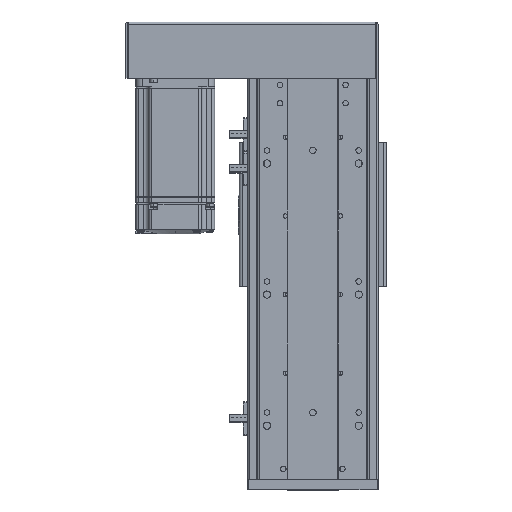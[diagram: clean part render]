
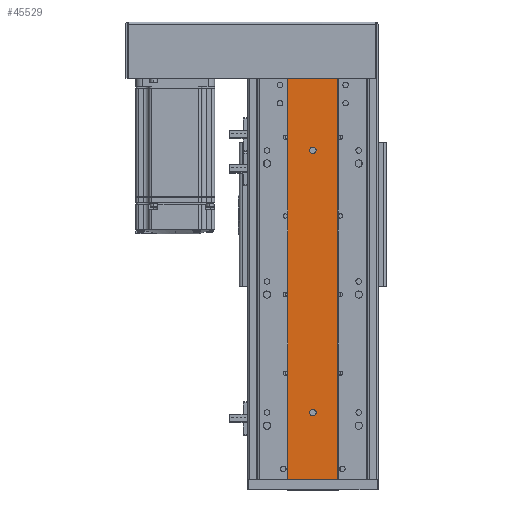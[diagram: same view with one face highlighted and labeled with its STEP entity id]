
A CAD part, top view. The second image highlights one B-rep face of the part: STEP entity #45529.
In plain terms, the highlighted planar face has unit normal (0, 0, 1).
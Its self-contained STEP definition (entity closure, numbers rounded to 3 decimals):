
#709 = LINE ( 'NONE', #11039, #752 ) ;
#728 = CIRCLE ( 'NONE', #23585, 2.5 ) ;
#733 = CIRCLE ( 'NONE', #23589, 2.5 ) ;
#752 = VECTOR ( 'NONE', #11041, 1000. ) ;
#800 = LINE ( 'NONE', #11161, #812 ) ;
#812 = VECTOR ( 'NONE', #11168, 1000. ) ;
#831 = LINE ( 'NONE', #11233, #871 ) ;
#871 = VECTOR ( 'NONE', #11211, 1000. ) ;
#915 = LINE ( 'NONE', #11305, #927 ) ;
#927 = VECTOR ( 'NONE', #11322, 1000. ) ;
#3376 = FACE_OUTER_BOUND ( 'NONE', #38665, .T. ) ;
#3390 = FACE_BOUND ( 'NONE', #38654, .T. ) ;
#3403 = FACE_BOUND ( 'NONE', #38661, .T. ) ;
#5526 = CARTESIAN_POINT ( 'NONE',  ( -10623.579, 251., -17040.86 ) ) ;
#5528 = CARTESIAN_POINT ( 'NONE',  ( -10628.579, 251., -17040.86 ) ) ;
#5567 = CARTESIAN_POINT ( 'NONE',  ( -10623.579, 51., -17040.86 ) ) ;
#5629 = CARTESIAN_POINT ( 'NONE',  ( -10628.579, 51., -17040.86 ) ) ;
#6032 = CARTESIAN_POINT ( 'NONE',  ( -10607.079, 306., -17040.86 ) ) ;
#6176 = CARTESIAN_POINT ( 'NONE',  ( -10607.079, 0., -17040.86 ) ) ;
#6186 = CARTESIAN_POINT ( 'NONE',  ( -10645.079, 0., -17040.86 ) ) ;
#6187 = CARTESIAN_POINT ( 'NONE',  ( -10645.079, 306., -17040.86 ) ) ;
#7989 = DIRECTION ( 'NONE',  ( 0., 0., -1. ) ) ;
#7999 = CARTESIAN_POINT ( 'NONE',  ( -10645.079, 306., -17040.86 ) ) ;
#8014 = PLANE ( 'NONE',  #23177 ) ;
#8034 = DIRECTION ( 'NONE',  ( -1., 0., 0. ) ) ;
#8800 = CIRCLE ( 'NONE', #24070, 2.5 ) ;
#8803 = CIRCLE ( 'NONE', #24077, 2.5 ) ;
#11013 = CARTESIAN_POINT ( 'NONE',  ( -10626.079, 251., -17040.86 ) ) ;
#11014 = DIRECTION ( 'NONE',  ( 0., 0., -1. ) ) ;
#11035 = DIRECTION ( 'NONE',  ( -1., 0., 0. ) ) ;
#11039 = CARTESIAN_POINT ( 'NONE',  ( -10607.079, 306., -17040.86 ) ) ;
#11041 = DIRECTION ( 'NONE',  ( 0., -1., 0. ) ) ;
#11048 = DIRECTION ( 'NONE',  ( 0., 0., -1. ) ) ;
#11049 = DIRECTION ( 'NONE',  ( -1., 0., 0. ) ) ;
#11064 = CARTESIAN_POINT ( 'NONE',  ( -10626.079, 51., -17040.86 ) ) ;
#11161 = CARTESIAN_POINT ( 'NONE',  ( -10645.079, 306., -17040.86 ) ) ;
#11168 = DIRECTION ( 'NONE',  ( 1., 0., 0. ) ) ;
#11211 = DIRECTION ( 'NONE',  ( 1., 0., 0. ) ) ;
#11233 = CARTESIAN_POINT ( 'NONE',  ( -10645.079, 0., -17040.86 ) ) ;
#11305 = CARTESIAN_POINT ( 'NONE',  ( -10645.079, 306., -17040.86 ) ) ;
#11322 = DIRECTION ( 'NONE',  ( 0., -1., 0. ) ) ;
#17621 = EDGE_CURVE ( 'NONE', #40771, #40769, #733, .T. ) ;
#17625 = EDGE_CURVE ( 'NONE', #43150, #43195, #709, .T. ) ;
#17628 = EDGE_CURVE ( 'NONE', #40825, #40763, #728, .T. ) ;
#17665 = EDGE_CURVE ( 'NONE', #43211, #43150, #800, .T. ) ;
#17700 = EDGE_CURVE ( 'NONE', #43208, #43195, #831, .T. ) ;
#17737 = EDGE_CURVE ( 'NONE', #43211, #43208, #915, .T. ) ;
#23177 = AXIS2_PLACEMENT_3D ( 'NONE', #7999, #7989, #8034 ) ;
#23396 = EDGE_CURVE ( 'NONE', #40763, #40825, #8800, .T. ) ;
#23421 = EDGE_CURVE ( 'NONE', #40769, #40771, #8803, .T. ) ;
#23585 = AXIS2_PLACEMENT_3D ( 'NONE', #11064, #11048, #11049 ) ;
#23589 = AXIS2_PLACEMENT_3D ( 'NONE', #11013, #11014, #11035 ) ;
#24070 = AXIS2_PLACEMENT_3D ( 'NONE', #36403, #36417, #36427 ) ;
#24077 = AXIS2_PLACEMENT_3D ( 'NONE', #36434, #36463, #36471 ) ;
#36403 = CARTESIAN_POINT ( 'NONE',  ( -10626.079, 51., -17040.86 ) ) ;
#36417 = DIRECTION ( 'NONE',  ( 0., 0., -1. ) ) ;
#36427 = DIRECTION ( 'NONE',  ( -1., 0., 0. ) ) ;
#36434 = CARTESIAN_POINT ( 'NONE',  ( -10626.079, 251., -17040.86 ) ) ;
#36463 = DIRECTION ( 'NONE',  ( 0., 0., -1. ) ) ;
#36471 = DIRECTION ( 'NONE',  ( -1., 0., 0. ) ) ;
#38136 = ORIENTED_EDGE ( 'NONE', *, *, #17621, .T. ) ;
#38180 = ORIENTED_EDGE ( 'NONE', *, *, #17737, .T. ) ;
#38186 = ORIENTED_EDGE ( 'NONE', *, *, #17625, .F. ) ;
#38187 = ORIENTED_EDGE ( 'NONE', *, *, #23421, .T. ) ;
#38190 = ORIENTED_EDGE ( 'NONE', *, *, #23396, .T. ) ;
#38191 = ORIENTED_EDGE ( 'NONE', *, *, #17665, .F. ) ;
#38204 = ORIENTED_EDGE ( 'NONE', *, *, #17700, .T. ) ;
#38219 = ORIENTED_EDGE ( 'NONE', *, *, #17628, .T. ) ;
#38654 = EDGE_LOOP ( 'NONE', ( #38190, #38219 ) ) ;
#38661 = EDGE_LOOP ( 'NONE', ( #38187, #38136 ) ) ;
#38665 = EDGE_LOOP ( 'NONE', ( #38204, #38186, #38191, #38180 ) ) ;
#40763 = VERTEX_POINT ( 'NONE', #5567 ) ;
#40769 = VERTEX_POINT ( 'NONE', #5526 ) ;
#40771 = VERTEX_POINT ( 'NONE', #5528 ) ;
#40825 = VERTEX_POINT ( 'NONE', #5629 ) ;
#43150 = VERTEX_POINT ( 'NONE', #6032 ) ;
#43195 = VERTEX_POINT ( 'NONE', #6176 ) ;
#43208 = VERTEX_POINT ( 'NONE', #6186 ) ;
#43211 = VERTEX_POINT ( 'NONE', #6187 ) ;
#45529 = ADVANCED_FACE ( 'NONE', ( #3403, #3390, #3376 ), #8014, .F. ) ;
